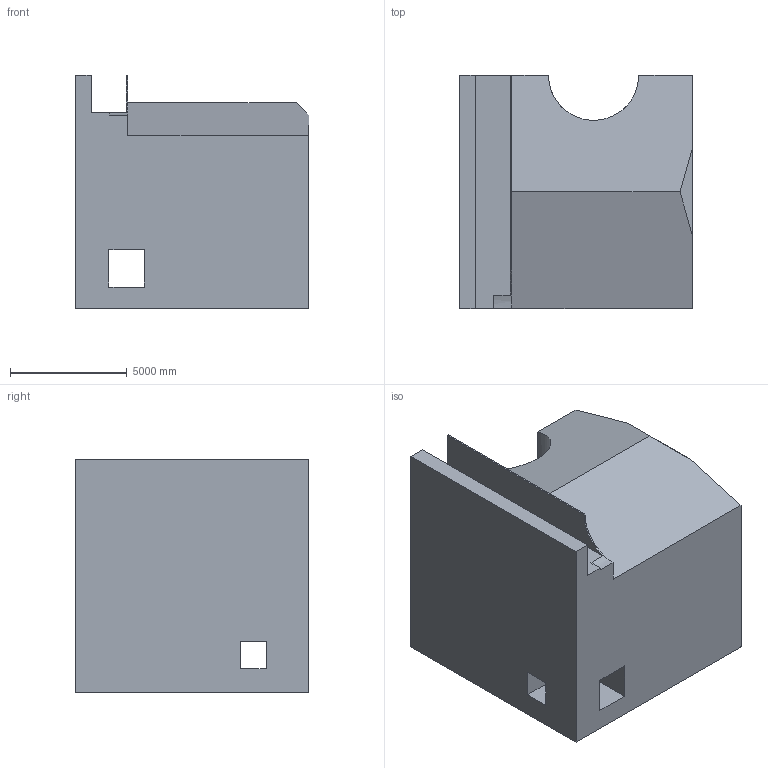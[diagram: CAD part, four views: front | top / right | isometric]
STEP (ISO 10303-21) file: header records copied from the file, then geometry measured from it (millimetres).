
FILE_DESCRIPTION (( 'STEP AP203' ), '1' );
FILE_NAME ('374.STEP', '2022-09-07T13:18:45', ( 'user' ), ( '' ), 'SwSTEP 2.0', 'SolidWorks 2021', '' );
FILE_SCHEMA (( 'CONFIG_CONTROL_DESIGN' ));
Length unit declared in the file: centimetre
Products named in the file (1): 374
Bounding box: 10000 x 10000 x 10000 mm (x, y, z)
Volume: 732944856733 mm3; surface area: 743961674.1 mm2
Topology: 1 solids, 1 shells, 38 faces, 114 edges, 76 vertices
Faces by surface type: plane 36, cylinder 2
Entity records: 1359 total; most frequent: CARTESIAN_POINT 232, ORIENTED_EDGE 228, DIRECTION 195, EDGE_CURVE 114, LINE 109, VECTOR 109, VERTEX_POINT 76, EDGE_LOOP 46
